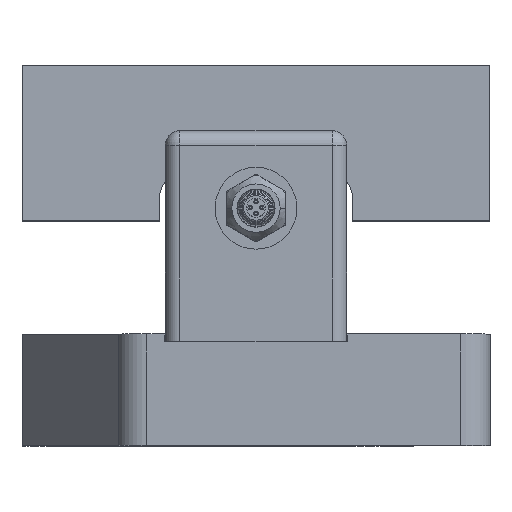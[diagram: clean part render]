
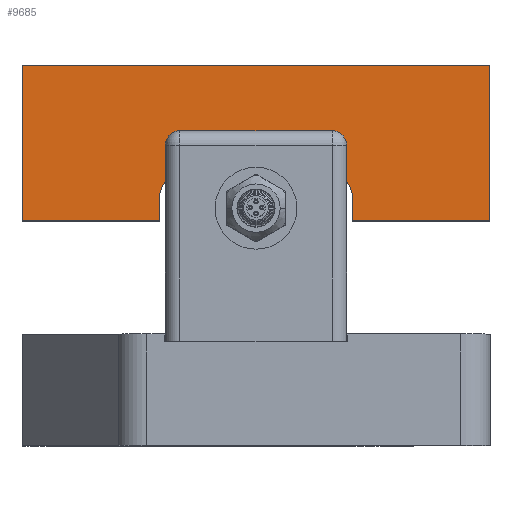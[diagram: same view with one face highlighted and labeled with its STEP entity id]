
A CAD part, top view. The second image highlights one B-rep face of the part: STEP entity #9685.
In plain terms, the highlighted planar face has unit normal (0, 0, 1) as drawn and (-1, 0, 0) by its records, which use the part's own axes.
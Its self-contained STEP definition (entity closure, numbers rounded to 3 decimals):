
#56 = DIRECTION ( 'NONE',  ( 0., 0., 1. ) ) ;
#132 = DIRECTION ( 'NONE',  ( 0., 0., 1. ) ) ;
#303 = CARTESIAN_POINT ( 'NONE',  ( 0., -10., -23. ) ) ;
#490 = VECTOR ( 'NONE', #12906, 1000. ) ;
#531 = CARTESIAN_POINT ( 'NONE',  ( 0., -17.5, -80. ) ) ;
#744 = CARTESIAN_POINT ( 'NONE',  ( 0., -17.5, 80. ) ) ;
#1005 = VERTEX_POINT ( 'NONE', #531 ) ;
#1097 = CARTESIAN_POINT ( 'NONE',  ( 0., -10., 33. ) ) ;
#1134 = PLANE ( 'NONE',  #10049 ) ;
#1738 = DIRECTION ( 'NONE',  ( 0., 0., 1. ) ) ;
#1979 = LINE ( 'NONE', #9148, #2145 ) ;
#2145 = VECTOR ( 'NONE', #56, 1000. ) ;
#2170 = DIRECTION ( 'NONE',  ( 0., 0., 1. ) ) ;
#2261 = EDGE_CURVE ( 'NONE', #7913, #9929, #1979, .T. ) ;
#2281 = CARTESIAN_POINT ( 'NONE',  ( 0., 35.5, 80. ) ) ;
#2305 = ORIENTED_EDGE ( 'NONE', *, *, #13071, .T. ) ;
#2452 = CARTESIAN_POINT ( 'NONE',  ( 0., -17.5, 80. ) ) ;
#2565 = VERTEX_POINT ( 'NONE', #1097 ) ;
#2713 = LINE ( 'NONE', #5693, #490 ) ;
#2806 = DIRECTION ( 'NONE',  ( 1., 0., 0. ) ) ;
#3141 = CARTESIAN_POINT ( 'NONE',  ( 0., -17.5, 80. ) ) ;
#3223 = EDGE_LOOP ( 'NONE', ( #10066, #3519, #6422, #8710, #2305, #8340, #5543, #9273, #12044, #12641 ) ) ;
#3465 = DIRECTION ( 'NONE',  ( 0., -1., 0. ) ) ;
#3504 = CARTESIAN_POINT ( 'NONE',  ( 0., 0., 23. ) ) ;
#3519 = ORIENTED_EDGE ( 'NONE', *, *, #10811, .T. ) ;
#3811 = LINE ( 'NONE', #10979, #4595 ) ;
#4163 = DIRECTION ( 'NONE',  ( 0., 0., 1. ) ) ;
#4173 = CARTESIAN_POINT ( 'NONE',  ( 0., -17.5, 33. ) ) ;
#4595 = VECTOR ( 'NONE', #7850, 1000. ) ;
#4806 = LINE ( 'NONE', #3141, #9923 ) ;
#4818 = EDGE_CURVE ( 'NONE', #6367, #5688, #3811, .T. ) ;
#5110 = VECTOR ( 'NONE', #7221, 1000. ) ;
#5159 = AXIS2_PLACEMENT_3D ( 'NONE', #303, #7290, #2170 ) ;
#5182 = CARTESIAN_POINT ( 'NONE',  ( 0., 0., 0. ) ) ;
#5242 = CARTESIAN_POINT ( 'NONE',  ( 0., 0., -23. ) ) ;
#5264 = VECTOR ( 'NONE', #9973, 1000. ) ;
#5354 = VERTEX_POINT ( 'NONE', #5559 ) ;
#5543 = ORIENTED_EDGE ( 'NONE', *, *, #12179, .F. ) ;
#5559 = CARTESIAN_POINT ( 'NONE',  ( 0., 35.5, -80. ) ) ;
#5688 = VERTEX_POINT ( 'NONE', #6369 ) ;
#5693 = CARTESIAN_POINT ( 'NONE',  ( 0., -17.5, -80. ) ) ;
#5798 = CIRCLE ( 'NONE', #5159, 10. ) ;
#5966 = AXIS2_PLACEMENT_3D ( 'NONE', #8212, #2806, #1738 ) ;
#6100 = CARTESIAN_POINT ( 'NONE',  ( 0., -17.5, 80. ) ) ;
#6367 = VERTEX_POINT ( 'NONE', #7084 ) ;
#6369 = CARTESIAN_POINT ( 'NONE',  ( 0., -10., -33. ) ) ;
#6422 = ORIENTED_EDGE ( 'NONE', *, *, #2261, .T. ) ;
#6532 = EDGE_CURVE ( 'NONE', #5354, #11679, #12513, .T. ) ;
#7084 = CARTESIAN_POINT ( 'NONE',  ( 0., -17.5, -33. ) ) ;
#7221 = DIRECTION ( 'NONE',  ( 0., -1., 0. ) ) ;
#7290 = DIRECTION ( 'NONE',  ( 1., 0., 0. ) ) ;
#7338 = VECTOR ( 'NONE', #4163, 1000. ) ;
#7635 = LINE ( 'NONE', #8563, #11214 ) ;
#7850 = DIRECTION ( 'NONE',  ( 0., 1., 0. ) ) ;
#7913 = VERTEX_POINT ( 'NONE', #5242 ) ;
#8212 = CARTESIAN_POINT ( 'NONE',  ( 0., -10., 23. ) ) ;
#8292 = EDGE_CURVE ( 'NONE', #10453, #10205, #4806, .T. ) ;
#8340 = ORIENTED_EDGE ( 'NONE', *, *, #8292, .F. ) ;
#8506 = FACE_OUTER_BOUND ( 'NONE', #3223, .T. ) ;
#8563 = CARTESIAN_POINT ( 'NONE',  ( 0., -17.5, 33. ) ) ;
#8710 = ORIENTED_EDGE ( 'NONE', *, *, #12008, .T. ) ;
#8723 = EDGE_CURVE ( 'NONE', #6367, #1005, #13063, .T. ) ;
#9148 = CARTESIAN_POINT ( 'NONE',  ( 0., 0., 33. ) ) ;
#9235 = DIRECTION ( 'NONE',  ( -1., 0., 0. ) ) ;
#9273 = ORIENTED_EDGE ( 'NONE', *, *, #6532, .F. ) ;
#9276 = CARTESIAN_POINT ( 'NONE',  ( 0., 35.5, 80. ) ) ;
#9685 = ADVANCED_FACE ( 'NONE', ( #8506 ), #1134, .T. ) ;
#9923 = VECTOR ( 'NONE', #12963, 1000. ) ;
#9929 = VERTEX_POINT ( 'NONE', #3504 ) ;
#9973 = DIRECTION ( 'NONE',  ( 0., 0., -1. ) ) ;
#10049 = AXIS2_PLACEMENT_3D ( 'NONE', #5182, #9235, #132 ) ;
#10066 = ORIENTED_EDGE ( 'NONE', *, *, #4818, .T. ) ;
#10205 = VERTEX_POINT ( 'NONE', #4173 ) ;
#10451 = CIRCLE ( 'NONE', #5966, 10. ) ;
#10453 = VERTEX_POINT ( 'NONE', #6100 ) ;
#10811 = EDGE_CURVE ( 'NONE', #5688, #7913, #5798, .T. ) ;
#10979 = CARTESIAN_POINT ( 'NONE',  ( 0., -17.5, -33. ) ) ;
#10993 = EDGE_CURVE ( 'NONE', #1005, #5354, #2713, .T. ) ;
#11214 = VECTOR ( 'NONE', #3465, 1000. ) ;
#11581 = LINE ( 'NONE', #2452, #5110 ) ;
#11679 = VERTEX_POINT ( 'NONE', #2281 ) ;
#12008 = EDGE_CURVE ( 'NONE', #9929, #2565, #10451, .T. ) ;
#12044 = ORIENTED_EDGE ( 'NONE', *, *, #10993, .F. ) ;
#12179 = EDGE_CURVE ( 'NONE', #11679, #10453, #11581, .T. ) ;
#12513 = LINE ( 'NONE', #9276, #7338 ) ;
#12641 = ORIENTED_EDGE ( 'NONE', *, *, #8723, .F. ) ;
#12906 = DIRECTION ( 'NONE',  ( 0., 1., 0. ) ) ;
#12963 = DIRECTION ( 'NONE',  ( 0., 0., -1. ) ) ;
#13063 = LINE ( 'NONE', #744, #5264 ) ;
#13071 = EDGE_CURVE ( 'NONE', #2565, #10205, #7635, .T. ) ;
